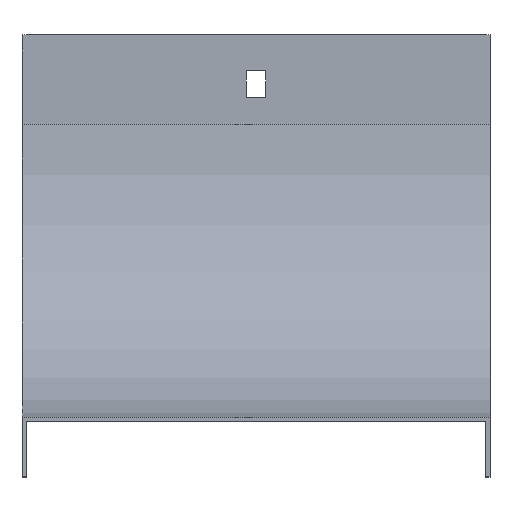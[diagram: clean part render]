
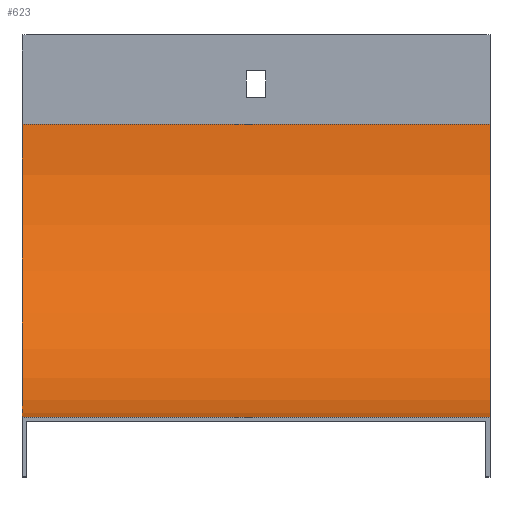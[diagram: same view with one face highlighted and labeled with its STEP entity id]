
A CAD part, top view. The second image highlights one B-rep face of the part: STEP entity #623.
In plain terms, the highlighted cylindrical face has radius 98.5 mm (diameter 197 mm), a partial arc.
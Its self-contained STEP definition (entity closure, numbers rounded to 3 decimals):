
#23 = DIRECTION ( 'NONE',  ( 0., 0., 1. ) ) ;
#25 = EDGE_CURVE ( 'NONE', #269, #527, #132, .T. ) ;
#33 = CARTESIAN_POINT ( 'NONE',  ( -78.5, 98.5, -30. ) ) ;
#39 = CARTESIAN_POINT ( 'NONE',  ( 78.5, 98.5, -30. ) ) ;
#122 = ORIENTED_EDGE ( 'NONE', *, *, #25, .F. ) ;
#129 = AXIS2_PLACEMENT_3D ( 'NONE', #33, #825, #426 ) ;
#132 = LINE ( 'NONE', #590, #542 ) ;
#175 = VERTEX_POINT ( 'NONE', #856 ) ;
#191 = LINE ( 'NONE', #714, #660 ) ;
#227 = VERTEX_POINT ( 'NONE', #230 ) ;
#230 = CARTESIAN_POINT ( 'NONE',  ( -78.5, 98.5, -128.5 ) ) ;
#267 = AXIS2_PLACEMENT_3D ( 'NONE', #693, #753, #23 ) ;
#269 = VERTEX_POINT ( 'NONE', #557 ) ;
#281 = EDGE_CURVE ( 'NONE', #175, #269, #631, .T. ) ;
#381 = EDGE_CURVE ( 'NONE', #175, #227, #191, .T. ) ;
#404 = CARTESIAN_POINT ( 'NONE',  ( -78.5, 0., -30. ) ) ;
#426 = DIRECTION ( 'NONE',  ( 0., 0., -1. ) ) ;
#436 = ORIENTED_EDGE ( 'NONE', *, *, #668, .T. ) ;
#461 = DIRECTION ( 'NONE',  ( -1., 0., 0. ) ) ;
#468 = ORIENTED_EDGE ( 'NONE', *, *, #381, .T. ) ;
#488 = FACE_OUTER_BOUND ( 'NONE', #692, .T. ) ;
#492 = DIRECTION ( 'NONE',  ( -1., 0., 0. ) ) ;
#527 = VERTEX_POINT ( 'NONE', #404 ) ;
#542 = VECTOR ( 'NONE', #461, 1000. ) ;
#543 = ORIENTED_EDGE ( 'NONE', *, *, #281, .F. ) ;
#557 = CARTESIAN_POINT ( 'NONE',  ( 78.5, 0., -30. ) ) ;
#561 = CYLINDRICAL_SURFACE ( 'NONE', #267, 98.5 ) ;
#573 = AXIS2_PLACEMENT_3D ( 'NONE', #39, #492, #760 ) ;
#590 = CARTESIAN_POINT ( 'NONE',  ( 78.5, 0., -30. ) ) ;
#623 = ADVANCED_FACE ( 'NONE', ( #488 ), #561, .F. ) ;
#631 = CIRCLE ( 'NONE', #573, 98.5 ) ;
#660 = VECTOR ( 'NONE', #784, 1000. ) ;
#668 = EDGE_CURVE ( 'NONE', #227, #527, #696, .T. ) ;
#692 = EDGE_LOOP ( 'NONE', ( #436, #122, #543, #468 ) ) ;
#693 = CARTESIAN_POINT ( 'NONE',  ( 78.5, 98.5, -30. ) ) ;
#696 = CIRCLE ( 'NONE', #129, 98.5 ) ;
#714 = CARTESIAN_POINT ( 'NONE',  ( 78.5, 98.5, -128.5 ) ) ;
#753 = DIRECTION ( 'NONE',  ( -1., 0., 0. ) ) ;
#760 = DIRECTION ( 'NONE',  ( 0., 0., -1. ) ) ;
#784 = DIRECTION ( 'NONE',  ( -1., 0., 0. ) ) ;
#825 = DIRECTION ( 'NONE',  ( -1., 0., 0. ) ) ;
#856 = CARTESIAN_POINT ( 'NONE',  ( 78.5, 98.5, -128.5 ) ) ;
